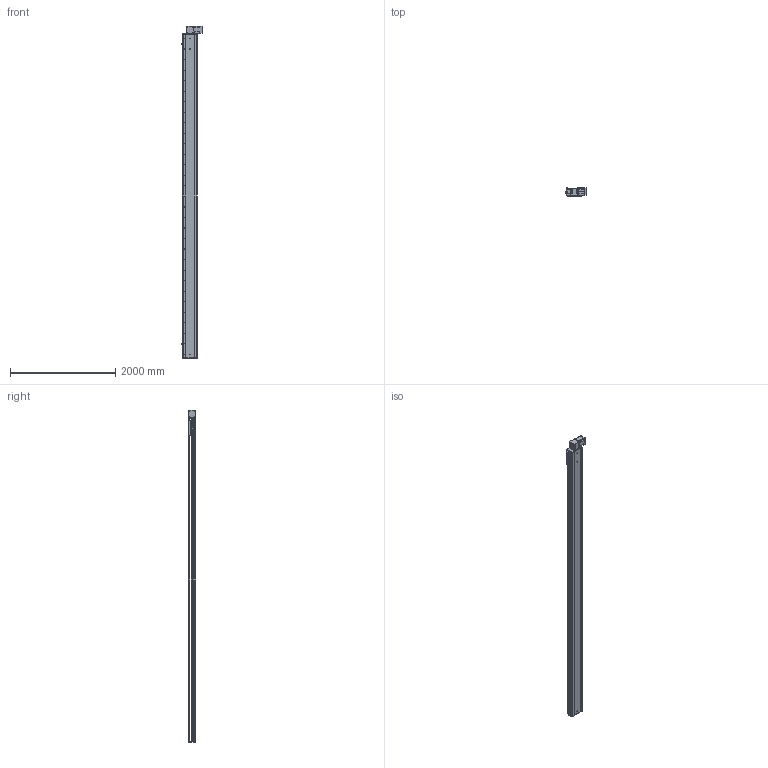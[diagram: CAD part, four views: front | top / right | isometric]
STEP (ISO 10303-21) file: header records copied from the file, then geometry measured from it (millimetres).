
FILE_DESCRIPTION (( 'STEP AP214' ), '1' );
FILE_NAME ('RTB28S-XX-5700-BL-M100-XX-C4.STEP', '2025-12-22T02:58:03', ( '' ), ( '' ), 'SwSTEP 2.0', 'SolidWorks 2018', '' );
FILE_SCHEMA (( 'AUTOMOTIVE_DESIGN' ));
Length unit declared in the file: millimetre
Products named in the file (4): RTB28S-GY-011^RTB28S-XX-XX-BL-M100-XX-C4; RTB28S-XX-5700-BL-M100-XX-C4; RTB28S-GY-004^RTB28S-XX-XX-BL-M100-XX-C4; RTB28S-GY-008^RTB28S-XX-XX-BL-M100-XX-C4
Assembly tree (3 placements, depth 2):
  RTB28S-XX-5700-BL-M100-XX-C4
    RTB28S-GY-011^RTB28S-XX-XX-BL-M100-XX-C4
    RTB28S-GY-004^RTB28S-XX-XX-BL-M100-XX-C4
    RTB28S-GY-008^RTB28S-XX-XX-BL-M100-XX-C4
Bounding box: 380.7 x 145 x 6307 mm (x, y, z)
Volume: 103636772.6 mm3; surface area: 9539078.9 mm2
Topology: 3 solids, 4 shells, 1018 faces, 2778 edges, 1788 vertices
Faces by surface type: cylinder 543, plane 391, cone 80, torus 4
Entity records: 40691 total; most frequent: CARTESIAN_POINT 8452, DIRECTION 5940, ORIENTED_EDGE 5492, EDGE_CURVE 2746, AXIS2_PLACEMENT_3D 2240, VERTEX_POINT 1788, LINE 1460, VECTOR 1460
